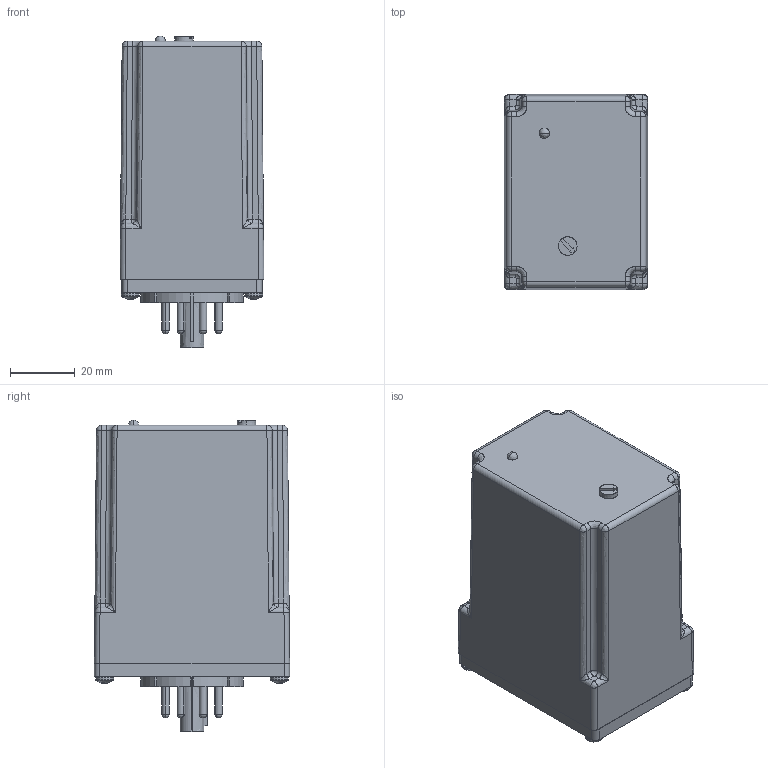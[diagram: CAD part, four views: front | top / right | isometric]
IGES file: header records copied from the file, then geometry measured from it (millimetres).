
Start section: SolidWorks IGES file using analytic representation for surfaces
Global section: file name: C:\Documents and Settings\Joshua\Desktop\eric\090413\SFP Single LCP Single Dual.igs; native system: SolidWorks 2007; preprocessor: SolidWorks 2007; author: Joshua; date: 140904.220337; units: inch
Bounding box: 44.45 x 60.33 x 96.33 mm (x, y, z)
Surface area: 28852.8 mm2 (no closed solid volume)
Topology: 0 solids, 0 shells, 695 faces, 8562 edges, 8492 vertices
Faces by surface type: revolution 352, bspline 343
